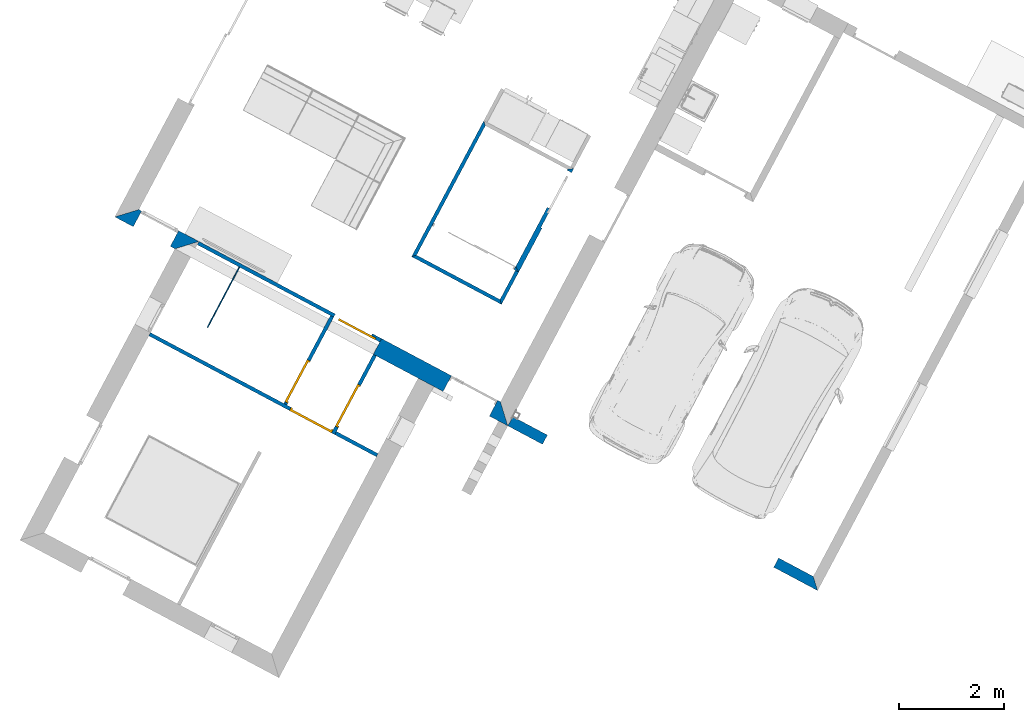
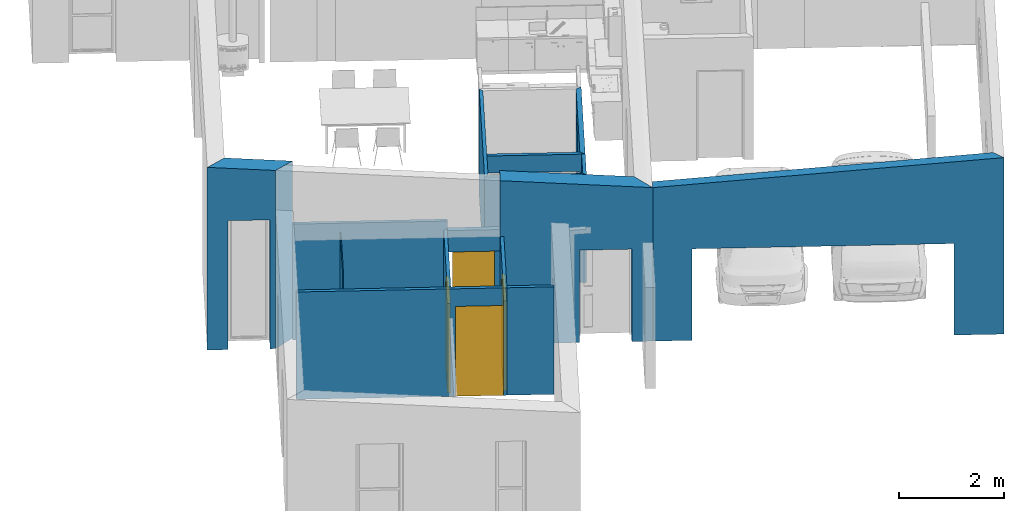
# One storey, part 3 of 27: 14 walls, 4 doors, 9 openings.
"""IFC2X3 building model written with IfcOpenShell, lengths in metres."""

from ifc_helpers import new_model, entity, si_unit, converted_unit, derived_unit, money_unit, direction, frame, origin_with_axes, origin_2d_with_axis, place, context, subcontext, project, spatial, polyline, rectangle, outline, extrude, clip, halfspace, bounded_halfspace, faceted_brep, source, transform, mapped, material, layer, layer_set, layer_usage, type_object, element, fill, save


model = new_model("IFC2X3")

# Units and contexts
model_context = context("Model", 3, precision=1e-05, world=origin_with_axes(), true_north=direction((0.0, 1.0)))
body_context = subcontext(model_context, "Body", "Model", "MODEL_VIEW")
ifc_project = project(units=[si_unit("LENGTHUNIT", "METRE"), si_unit("AREAUNIT", "SQUARE_METRE"), si_unit("VOLUMEUNIT", "CUBIC_METRE"), converted_unit("PLANEANGLEUNIT", "DEGREE", entity("IfcPlaneAngleMeasure", 0.0174532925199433), si_unit("PLANEANGLEUNIT", "RADIAN"), dimensions=[0, 0, 0, 0, 0, 0, 0]), money_unit("CHF"), converted_unit("TIMEUNIT", "Year", entity("IfcTimeMeasure", 31557600.0), si_unit("TIMEUNIT", "SECOND"), dimensions=[0, 0, 1, 0, 0, 0, 0]), si_unit("MASSUNIT", "GRAM", prefix="KILO"), si_unit("THERMODYNAMICTEMPERATUREUNIT", "DEGREE_CELSIUS"), si_unit("LUMINOUSINTENSITYUNIT", "LUMEN"), si_unit("ENERGYUNIT", "JOULE", prefix="MEGA"), derived_unit("THERMALCONDUCTANCEUNIT", [(si_unit("POWERUNIT", "WATT"), 1), (si_unit("LENGTHUNIT", "METRE"), -1), (si_unit("THERMODYNAMICTEMPERATUREUNIT", "KELVIN"), -1)]), derived_unit("SPECIFICHEATCAPACITYUNIT", [(si_unit("ENERGYUNIT", "JOULE"), 1), (si_unit("MASSUNIT", "GRAM", prefix="KILO"), -1), (si_unit("THERMODYNAMICTEMPERATUREUNIT", "KELVIN"), -1)]), derived_unit("MASSDENSITYUNIT", [(si_unit("MASSUNIT", "GRAM", prefix="KILO"), 1), (si_unit("VOLUMEUNIT", "CUBIC_METRE"), -1)])], contexts=[model_context])

# Site, building, storey
site_placement = place(None, frame((0.0, 0.0, 0.0), z_axis=(0.0, 0.0, 1.0), x_axis=(-0.4694715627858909, -0.8829475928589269, 0.0)))
site = spatial("IfcSite", under=ifc_project, at=site_placement, Name="Site", CompositionType="ELEMENT")
building_placement = place(site_placement, origin_with_axes())
building = spatial("IfcBuilding", under=site, at=building_placement, Name="Bâtiment", CompositionType="ELEMENT")
storey_placement = place(building_placement, origin_with_axes())
storey = spatial("IfcBuildingStorey", under=building, at=storey_placement, Name="RDC", CompositionType="ELEMENT", Elevation=0.0)

# Wall, opening
ifc_material_1 = material(Name="Maçonnerie 290464332")
ifc_layer_1 = layer(ifc_material_1, 0.2, ventilated="UNKNOWN")
ifc_material_2 = material(Name="Isolation 272048125")
ifc_layer_2 = layer(ifc_material_2, 0.14, ventilated="UNKNOWN")
ifc_layer_set_1 = layer_set([ifc_layer_1, ifc_layer_2], Name="MUR EXT 34 0024849982")
ifc_layer_usage_1 = layer_usage(ifc_layer_set_1, "AXIS2", "POSITIVE", 0.0)
wall_type_1 = type_object("IfcWallType", Name="MUR EXT 34 0024849982 340", PredefinedType="NOTDEFINED")
wall_1_placement = place(storey_placement, frame((143.5295710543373, -831.60459910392, 0.0), z_axis=(0.0, 0.0, 1.0), x_axis=(0.0, 1.0, 0.0)))
wall_1 = element("IfcWallStandardCase", 1, at=wall_1_placement, inside=storey, type_object=wall_type_1, material=ifc_layer_usage_1, Name="Mur-390", context=body_context, shape_type="Clipping", body=[
    clip(extrude(outline(polyline([(0.0, 0.0), (2.910000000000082, 0.0), (2.57000000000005, 0.3400000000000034), (0.0, 0.3400000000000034), (0.0, 0.0)])), origin_with_axes(), (0.0, 0.0, 1.0), 5.0), bounded_halfspace(frame((0.3024483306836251, 0.0, 3.780604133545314), z_axis=(-0.07974522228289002, 0.0, -0.9968152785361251), x_axis=(0.0, 1.0, 0.0)), True, origin_with_axes(), polyline([(-6.690009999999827, -0.01), (2.910000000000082, -0.01), (2.910000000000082, 0.3500000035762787), (-6.690009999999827, 0.3500000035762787), (-6.690009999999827, -0.01)]))),
])
opening_1_placement = place(wall_1_placement, frame((2.009999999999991, 0.0, 0.0), z_axis=(0.0, 0.0, 1.0), x_axis=(1.0, 0.0, 0.0)))
element("IfcOpeningElement", 2, at=opening_1_placement, cuts=wall_1, Name="porte 75", context=body_context, shape_type="SweptSolid", body=[
    extrude(rectangle(XDim=1.0, YDim=2.15, at=origin_2d_with_axis()), frame((0.0, -0.3400000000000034, 1.075), z_axis=(0.0, 1.0, 0.0), x_axis=(1.0, 0.0, 0.0)), (0.0, 0.0, 1.0), 1.02),
])

ifc_layer_usage_2 = layer_usage(ifc_layer_set_1, "AXIS2", "POSITIVE", 0.0)
wall_2_placement = place(storey_placement, frame((143.5295710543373, -837.1945991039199, 0.0), z_axis=(0.0, 0.0, 1.0), x_axis=(0.0, 1.0, 0.0)))
wall_2 = element("IfcWallStandardCase", 3, at=wall_2_placement, inside=storey, type_object=wall_type_1, material=ifc_layer_usage_2, Name="Mur-390", context=body_context, shape_type="Clipping", body=[
    clip(extrude(outline(polyline([(0.0, 0.0), (1.299999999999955, 0.0), (1.639999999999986, 0.3400000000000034), (0.3400000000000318, 0.3400000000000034), (0.0, 0.0)])), origin_with_axes(), (0.0, 0.0, 1.0), 5.0), halfspace(frame((0.3379968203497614, 0.0, 4.224960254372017), z_axis=(-0.07974522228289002, 0.0, -0.9968152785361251), x_axis=(0.0, 1.0, 0.0)), True)),
])
opening_2_placement = place(wall_2_placement, frame((0.7999999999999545, 0.0, 0.0), z_axis=(0.0, 0.0, 1.0), x_axis=(1.0, 0.0, 0.0)))
element("IfcOpeningElement", 4, at=opening_2_placement, cuts=wall_2, Name="Fen-155", context=body_context, shape_type="SweptSolid", body=[
    extrude(rectangle(XDim=0.7999999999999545, YDim=3.0, at=origin_2d_with_axis()), frame((0.0, -0.3400000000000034, 1.5), z_axis=(0.0, -1.0, 0.0), x_axis=(1.0, 0.0, 0.0)), (0.0, 0.0, -1.0), 1.02),
])

# Wall, opening, door
ifc_material_3 = material(Name="Isolation 269295175")
ifc_layer_3 = layer(ifc_material_3, 0.1, ventilated="UNKNOWN")
ifc_layer_set_2 = layer_set([ifc_layer_3], Name="CLOISON 10")
ifc_layer_usage_3 = layer_usage(ifc_layer_set_2, "AXIS2", "NEGATIVE", 0.0)
wall_type_2 = type_object("IfcWallType", Name="CLOISON 10 100", PredefinedType="NOTDEFINED")
wall_3_placement = place(storey_placement, frame((143.1895710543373, -832.60459910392, 0.0), z_axis=(0.0, 0.0, 1.0), x_axis=(0.0, 1.0, 0.0)))
wall_3 = element("IfcWallStandardCase", 5, at=wall_3_placement, inside=storey, type_object=wall_type_2, material=ifc_layer_usage_3, Name="Mur-396", context=body_context, shape_type="SweptSolid", body=[
    extrude(outline(polyline([(0.0, -0.09999999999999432), (1.0, -0.09999999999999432), (1.0, 0.0), (0.0, 0.0), (0.0, -0.09999999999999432)])), origin_with_axes(), (0.0, 0.0, 1.0), 2.5),
])
opening_3_placement = place(wall_3_placement, frame((0.3999999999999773, 0.0, 0.0), z_axis=(0.0, 0.0, 1.0), x_axis=(1.0, 0.0, 0.0)))
opening_3 = element("IfcOpeningElement", 6, at=opening_3_placement, cuts=wall_3, Name="porte 76", context=body_context, shape_type="SweptSolid", body=[
    extrude(rectangle(XDim=0.7999999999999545, YDim=2.0, at=origin_2d_with_axis()), frame((0.0, -0.06999999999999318, 1.0), z_axis=(0.0, 1.0, 0.0), x_axis=(1.0, 0.0, 0.0)), (0.0, 0.0, 1.0), 0.17),
    extrude(rectangle(XDim=0.3999999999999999, YDim=2.0, at=origin_2d_with_axis()), frame((0.6000000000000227, -0.1200000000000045, 0.9999999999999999), z_axis=(0.0, -1.0, 0.0), x_axis=(1.0, 0.0, 0.0)), (0.0, 0.0, -1.0), 0.045),
    extrude(rectangle(XDim=0.7999999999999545, YDim=2.0, at=origin_2d_with_axis()), frame((0.0, -0.06999999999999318, 0.9999999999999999), z_axis=(0.0, -1.0, 0.0), x_axis=(1.0, 0.0, 0.0)), (0.0, 0.0, 1.0), 0.13),
])
door_style_1 = type_object("IfcDoorStyle", Name="P_coul dans mur 12", ConstructionType="NOTDEFINED", OperationType="SLIDING_TO_LEFT", ParameterTakesPrecedence=False, Sizeable=False)
door_1_placement = place(opening_3_placement, frame((0.3999999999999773, 0.0, 0.0), z_axis=(0.0, 0.0, 1.0), x_axis=(-1.0, 0.0, 0.0)))
door_1 = element("IfcDoor", 7, at=door_1_placement, inside=storey, type_object=door_style_1, Name="porte 76", OverallHeight=2.0, OverallWidth=0.8, context=body_context, shape_type="Brep", body=[
    faceted_brep([(-0.1000000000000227, 0.0800000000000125, 0.0), (0.6999999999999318, 0.0800000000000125, 0.0), (0.6999999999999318, 0.03999999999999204, 0.0), (-0.1000000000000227, 0.03999999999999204, 0.0), (-0.1000000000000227, 0.0800000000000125, 2.0), (0.6999999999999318, 0.0800000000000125, 2.0), (0.6999999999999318, 0.03999999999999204, 2.0), (-0.1000000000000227, 0.03999999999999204, 2.0)], [[[0, 1, 2, 3]], [[0, 4, 5, 1]], [[1, 5, 6, 2]], [[3, 2, 6, 7]], [[4, 0, 3, 7]], [[5, 4, 7, 6]]]),
])
fill(opening_3, door_1)

# Wall, opening
ifc_layer_usage_4 = layer_usage(ifc_layer_set_2, "AXIS2", "POSITIVE", 0.0)
wall_4_placement = place(storey_placement, frame((140.8395710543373, -829.8895991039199, 0.0), z_axis=(0.0, 0.0, 1.0), x_axis=(-1.0, 0.0, 0.0)))
wall_4 = element("IfcWallStandardCase", 8, at=wall_4_placement, inside=storey, type_object=wall_type_2, material=ifc_layer_usage_4, Name="Mur-396", context=body_context, shape_type="SweptSolid", body=[
    extrude(outline(polyline([(0.0, 0.0), (2.239999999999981, 0.0), (2.169999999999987, 0.1000000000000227), (0.06999999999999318, 0.1000000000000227), (0.0, 0.0)])), origin_with_axes(), (0.0, 0.0, 1.0), 2.5),
])
opening_4_placement = place(wall_4_placement, frame((1.74990555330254, 0.0, 0.0), z_axis=(0.0, 0.0, 1.0), x_axis=(1.0, 0.0, 0.0)))
element("IfcOpeningElement", 9, at=opening_4_placement, cuts=wall_4, Name="porte 76", context=body_context, shape_type="SweptSolid", body=[
    extrude(rectangle(XDim=0.8000000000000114, YDim=2.0, at=origin_2d_with_axis()), frame((0.0, 0.02999999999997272, 0.9999999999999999), z_axis=(0.0, -1.0, 0.0), x_axis=(-1.0, 0.0, 0.0)), (0.0, 0.0, -1.0), 0.17),
    extrude(rectangle(XDim=0.3999999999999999, YDim=2.0, at=origin_2d_with_axis()), frame((-0.5999999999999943, -0.01999999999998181, 0.9999999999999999), z_axis=(0.0, 1.0, 0.0), x_axis=(-1.0, 0.0, 0.0)), (0.0, 0.0, 1.0), 0.045),
    extrude(rectangle(XDim=0.8000000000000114, YDim=2.0, at=origin_2d_with_axis()), frame((0.0, 0.02999999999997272, 0.9999999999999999), z_axis=(0.0, 1.0, 0.0), x_axis=(-1.0, 0.0, 0.0)), (0.0, 0.0, -1.0), 0.13),
])

# Wall, opening, door
ifc_layer_4 = layer(ifc_material_3, 0.07, ventilated="UNKNOWN")
ifc_layer_set_3 = layer_set([ifc_layer_4], Name="CLOISON 7 0024849982")
ifc_layer_usage_5 = layer_usage(ifc_layer_set_3, "AXIS2", "NEGATIVE", 0.0)
wall_type_3 = type_object("IfcWallType", Name="CLOISON 7 0024849982 70", PredefinedType="NOTDEFINED")
wall_5_placement = place(storey_placement, frame((145.1595661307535, -835.5545991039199, 0.0), z_axis=(0.0, 0.0, 1.0), x_axis=(0.0, 1.0, 0.0)))
wall_5 = element("IfcWallStandardCase", 10, at=wall_5_placement, inside=storey, type_object=wall_type_3, material=ifc_layer_usage_5, Name="Mur-394", context=body_context, shape_type="SweptSolid", body=[
    extrude(outline(polyline([(0.0, -0.06999999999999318), (4.919999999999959, -0.06999999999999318), (4.919999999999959, 0.0), (0.0, 0.0), (0.0, -0.06999999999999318)])), origin_with_axes(), (0.0, 0.0, 1.0), 2.5),
])
opening_5_placement = place(wall_5_placement, frame((3.494999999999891, 0.0, 0.0), z_axis=(0.0, 0.0, 1.0), x_axis=(1.0, 0.0, 0.0)))
opening_5 = element("IfcOpeningElement", 11, at=opening_5_placement, cuts=wall_5, Name="porte 76", context=body_context, shape_type="SweptSolid", body=[
    extrude(rectangle(XDim=0.9100000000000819, YDim=2.09, at=origin_2d_with_axis()), frame((0.0, 0.06999999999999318, 1.045), z_axis=(0.0, 1.0, 0.0), x_axis=(1.0, 0.0, 0.0)), (0.0, 0.0, -1.0), 0.21),
])
door_style_2 = type_object("IfcDoorStyle", Name="P_int simple à carreaux 10", ConstructionType="NOTDEFINED", OperationType="SINGLE_SWING_LEFT", ParameterTakesPrecedence=False, Sizeable=False)
shared_shape = source(origin_with_axes(), body_context, "Body", "Brep", [
    faceted_brep([(0.423, -0.044, 0.0), (0.423, -0.07, 0.0), (0.423, -0.07, 2.058), (0.423, -0.044, 2.058), (0.4350000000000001, -0.044, 0.0), (0.4350000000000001, 0.0, 0.0), (0.4550000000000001, 0.0, 0.0), (0.4550000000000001, -0.07, 0.0), (0.4550000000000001, -0.07, 2.058), (0.4350000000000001, -0.044, 2.058), (0.4550000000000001, 0.0, 2.058), (0.4350000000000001, 0.0, 2.058)], [[[0, 1, 2, 3]], [[4, 5, 6, 7, 1, 0]], [[2, 1, 7, 8]], [[9, 3, 2, 8, 10, 11]], [[9, 4, 0, 3]], [[11, 5, 4, 9]], [[11, 10, 6, 5]], [[6, 10, 8, 7]]]),
    faceted_brep([(-0.4350000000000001, -0.044, 2.058), (-0.4350000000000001, 0.0, 2.058), (-0.4550000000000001, 0.0, 2.058), (-0.4550000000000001, -0.07, 2.058), (-0.423, -0.07, 2.058), (-0.423, -0.044, 2.058), (-0.4350000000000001, -0.044, 0.0), (-0.4350000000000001, 0.0, 0.0), (-0.4550000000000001, 0.0, 0.0), (-0.4550000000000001, -0.07, 0.0), (-0.423, -0.07, 0.0), (-0.423, -0.044, 0.0)], [[[0, 1, 2, 3, 4, 5]], [[0, 6, 7, 1]], [[7, 8, 2, 1]], [[2, 8, 9, 3]], [[3, 9, 10, 4]], [[5, 4, 10, 11]], [[5, 11, 6, 0]], [[6, 11, 10, 9, 8, 7]]]),
    faceted_brep([(0.4350000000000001, 0.0, 2.07), (-0.4350000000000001, 0.0, 2.07), (-0.4350000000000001, 0.0, 2.058), (-0.455, 0.0, 2.058), (-0.455, 0.0, 2.09), (0.455, 0.0, 2.09), (0.455, 0.0, 2.058), (0.4350000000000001, 0.0, 2.058), (0.4350000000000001, -0.044, 2.07), (-0.4350000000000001, -0.044, 2.07), (-0.4350000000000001, -0.044, 2.058), (-0.423, -0.044, 2.058), (-0.423, -0.07, 2.058), (-0.455, -0.07, 2.058), (-0.455, -0.07, 2.09), (0.455, -0.07, 2.09), (0.455, -0.07, 2.058), (0.4350000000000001, -0.044, 2.058), (0.423, -0.07, 2.058), (0.423, -0.044, 2.058)], [[[0, 1, 2, 3, 4, 5, 6, 7]], [[0, 8, 9, 1]], [[1, 9, 10, 2]], [[10, 11, 12, 13, 3, 2]], [[4, 3, 13, 14]], [[5, 4, 14, 15]], [[6, 5, 15, 16]], [[17, 7, 6, 16, 18, 19]], [[7, 17, 8, 0]], [[10, 9, 8, 17, 19, 11]], [[19, 18, 12, 11]], [[12, 18, 16, 15, 14, 13]]]),
    faceted_brep([(0.1, -0.044, 0.0), (0.435, -0.044, 0.0), (0.435, -0.04400000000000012, 2.07), (0.1, -0.04400000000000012, 2.07), (0.1, 0.0, 0.0), (0.435, 0.0, 0.0), (0.435, 0.0, 2.07), (0.1, 0.0, 2.07)], [[[0, 1, 2, 3]], [[4, 5, 1, 0]], [[1, 5, 6, 2]], [[3, 2, 6, 7]], [[7, 4, 0, 3]], [[7, 6, 5, 4]]]),
    faceted_brep([(-0.1, 0.0, 2.07), (-0.435, 0.0, 2.07), (-0.435, -0.04400000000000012, 2.07), (-0.1, -0.04400000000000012, 2.07), (-0.1, 0.0, 0.0), (-0.435, 0.0, 0.0), (-0.435, -0.044, 0.0), (-0.1, -0.044, 0.0)], [[[0, 1, 2, 3]], [[4, 5, 1, 0]], [[2, 1, 5, 6]], [[3, 2, 6, 7]], [[7, 4, 0, 3]], [[7, 6, 5, 4]]]),
    faceted_brep([(0.1, 0.0, 1.87), (0.1, 0.0, 2.07), (0.1, -0.044, 2.07), (0.1, -0.044, 1.87), (-0.1, 0.0, 1.87), (-0.1, 0.0, 2.07), (-0.1, -0.044, 2.07), (-0.1, -0.044, 1.87)], [[[0, 1, 2, 3]], [[0, 4, 5, 1]], [[1, 5, 6, 2]], [[3, 2, 6, 7]], [[4, 0, 3, 7]], [[5, 4, 7, 6]]]),
    faceted_brep([(0.1, 0.0, 1.67), (0.1, 0.0, 1.87), (0.1, -0.044, 1.87), (0.1, -0.044, 1.67), (-0.1, 0.0, 1.67), (-0.1, 0.0, 1.87), (-0.1, -0.044, 1.87), (-0.1, -0.044, 1.67)], [[[0, 1, 2, 3]], [[0, 4, 5, 1]], [[1, 5, 6, 2]], [[3, 2, 6, 7]], [[4, 0, 3, 7]], [[5, 4, 7, 6]]]),
    faceted_brep([(0.1, 0.0, 1.47), (0.1, 0.0, 1.67), (0.1, -0.044, 1.67), (0.1, -0.044, 1.47), (-0.1, 0.0, 1.47), (-0.1, 0.0, 1.67), (-0.1, -0.044, 1.67), (-0.1, -0.044, 1.47)], [[[0, 1, 2, 3]], [[0, 4, 5, 1]], [[1, 5, 6, 2]], [[3, 2, 6, 7]], [[4, 0, 3, 7]], [[5, 4, 7, 6]]]),
    faceted_brep([(0.1, 0.0, 1.27), (0.1, 0.0, 1.47), (0.1, -0.044, 1.47), (0.1, -0.044, 1.27), (-0.1, 0.0, 1.27), (-0.1, 0.0, 1.47), (-0.1, -0.044, 1.47), (-0.1, -0.044, 1.27)], [[[0, 1, 2, 3]], [[0, 4, 5, 1]], [[1, 5, 6, 2]], [[3, 2, 6, 7]], [[4, 0, 3, 7]], [[5, 4, 7, 6]]]),
    faceted_brep([(0.1, 0.0, 1.07), (0.1, 0.0, 1.27), (0.1, -0.044, 1.27), (0.1, -0.044, 1.07), (-0.1, 0.0, 1.07), (-0.1, 0.0, 1.27), (-0.1, -0.044, 1.27), (-0.1, -0.044, 1.07)], [[[0, 1, 2, 3]], [[0, 4, 5, 1]], [[1, 5, 6, 2]], [[3, 2, 6, 7]], [[4, 0, 3, 7]], [[5, 4, 7, 6]]]),
    faceted_brep([(0.1, 0.0, 0.8700000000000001), (0.1, 0.0, 1.07), (0.1, -0.044, 1.07), (0.1, -0.044, 0.8700000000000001), (-0.1, 0.0, 0.8700000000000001), (-0.1, 0.0, 1.07), (-0.1, -0.044, 1.07), (-0.1, -0.044, 0.8700000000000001)], [[[0, 1, 2, 3]], [[0, 4, 5, 1]], [[1, 5, 6, 2]], [[3, 2, 6, 7]], [[4, 0, 3, 7]], [[5, 4, 7, 6]]]),
    faceted_brep([(0.1, 0.0, 0.6700000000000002), (0.1, 0.0, 0.8700000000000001), (0.1, -0.044, 0.8700000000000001), (0.1, -0.044, 0.6700000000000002), (-0.1, 0.0, 0.6700000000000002), (-0.1, 0.0, 0.8700000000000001), (-0.1, -0.044, 0.8700000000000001), (-0.1, -0.044, 0.6700000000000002)], [[[0, 1, 2, 3]], [[0, 4, 5, 1]], [[1, 5, 6, 2]], [[3, 2, 6, 7]], [[4, 0, 3, 7]], [[5, 4, 7, 6]]]),
    faceted_brep([(0.1, 0.0, 0.4700000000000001), (0.1, 0.0, 0.6700000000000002), (0.1, -0.044, 0.6700000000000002), (0.1, -0.044, 0.4700000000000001), (-0.1, 0.0, 0.4700000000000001), (-0.1, 0.0, 0.6700000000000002), (-0.1, -0.044, 0.6700000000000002), (-0.1, -0.044, 0.4700000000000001)], [[[0, 1, 2, 3]], [[0, 4, 5, 1]], [[1, 5, 6, 2]], [[3, 2, 6, 7]], [[4, 0, 3, 7]], [[5, 4, 7, 6]]]),
    faceted_brep([(0.1, 0.0, 0.2700000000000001), (0.1, 0.0, 0.4700000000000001), (0.1, -0.044, 0.4700000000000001), (0.1, -0.044, 0.2700000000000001), (-0.1, 0.0, 0.2700000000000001), (-0.1, 0.0, 0.4700000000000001), (-0.1, -0.044, 0.4700000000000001), (-0.1, -0.044, 0.2700000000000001)], [[[0, 1, 2, 3]], [[0, 4, 5, 1]], [[1, 5, 6, 2]], [[3, 2, 6, 7]], [[4, 0, 3, 7]], [[5, 4, 7, 6]]]),
    faceted_brep([(0.1, 0.0, 0.07000000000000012), (0.1, 0.0, 0.2700000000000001), (0.1, -0.044, 0.2700000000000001), (0.1, -0.044, 0.07000000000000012), (-0.1, 0.0, 0.07000000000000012), (-0.1, 0.0, 0.2700000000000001), (-0.1, -0.044, 0.2700000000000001), (-0.1, -0.044, 0.07000000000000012)], [[[0, 1, 2, 3]], [[0, 4, 5, 1]], [[1, 5, 6, 2]], [[3, 2, 6, 7]], [[4, 0, 3, 7]], [[5, 4, 7, 6]]]),
    faceted_brep([(0.1, -0.044, 0.0), (0.1, -0.044, 0.07000000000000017), (-0.1, -0.044, 0.07000000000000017), (-0.1, -0.044, 0.0), (0.1, 0.0, 0.0), (0.1, 0.0, 0.07000000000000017), (-0.1, 0.0, 0.07000000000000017), (-0.1, 0.0, 0.0)], [[[0, 1, 2, 3]], [[4, 5, 1, 0]], [[1, 5, 6, 2]], [[3, 2, 6, 7]], [[7, 4, 0, 3]], [[7, 6, 5, 4]]]),
])
door_2_placement = place(opening_5_placement, frame((0.4550000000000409, 0.0, 0.0), z_axis=(0.0, 0.0, 1.0), x_axis=(-1.0, 0.0, 0.0)))
door_2 = element("IfcDoor", 12, at=door_2_placement, inside=storey, type_object=door_style_2, Name="porte 76", OverallHeight=2.09, OverallWidth=0.91, context=body_context, shape_type="MappedRepresentation", body=[
    mapped(shared_shape, transform((0.4550000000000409, 0.06999999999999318, 0.0))),
])
fill(opening_5, door_2)

ifc_layer_usage_6 = layer_usage(ifc_layer_set_3, "AXIS2", "NEGATIVE", 0.0)
wall_6_placement = place(storey_placement, frame((143.1895710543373, -832.60459910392, 0.0), z_axis=(0.0, 0.0, 1.0), x_axis=(1.0, 0.0, 0.0)))
wall_6 = element("IfcWallStandardCase", 13, at=wall_6_placement, inside=storey, type_object=wall_type_3, material=ifc_layer_usage_6, Name="Mur-394", context=body_context, shape_type="SweptSolid", body=[
    extrude(outline(polyline([(0.06999999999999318, -0.07000000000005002), (1.969995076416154, -0.07000000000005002), (1.969995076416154, 0.0), (0.06999999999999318, 0.0), (0.06999999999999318, -0.07000000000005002)])), origin_with_axes(), (0.0, 0.0, 1.0), 2.5),
])
opening_6_placement = place(wall_6_placement, frame((1.474997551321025, 0.0, 0.0), z_axis=(0.0, 0.0, 1.0), x_axis=(1.0, 0.0, 0.0)))
opening_6 = element("IfcOpeningElement", 14, at=opening_6_placement, cuts=wall_6, Name="porte 76", context=body_context, shape_type="SweptSolid", body=[
    extrude(rectangle(XDim=0.910000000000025, YDim=2.09, at=origin_2d_with_axis()), frame((0.0, 0.07000000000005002, 1.045), z_axis=(0.0, 1.0, 0.0), x_axis=(1.0, 0.0, 0.0)), (0.0, 0.0, -1.0), 0.21),
])
door_3_placement = place(opening_6_placement, frame((0.4549999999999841, 0.0, 0.0), z_axis=(0.0, 0.0, 1.0), x_axis=(-1.0, 0.0, 0.0)))
door_3 = element("IfcDoor", 15, at=door_3_placement, inside=storey, type_object=door_style_2, Name="porte 76", OverallHeight=2.09, OverallWidth=0.91, context=body_context, shape_type="MappedRepresentation", body=[
    mapped(shared_shape, transform((0.4550000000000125, 0.07000000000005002, 0.0))),
])
fill(opening_6, door_3)

# Wall
ifc_layer_usage_7 = layer_usage(ifc_layer_set_3, "AXIS2", "NEGATIVE", 0.0)
wall_7_placement = place(storey_placement, frame((143.1895710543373, -835.5545991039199, 0.0), z_axis=(0.0, 0.0, 1.0), x_axis=(0.0, 1.0, 0.0)))
element("IfcWallStandardCase", 16, at=wall_7_placement, inside=storey, type_object=wall_type_3, material=ifc_layer_usage_7, Name="Mur-394", context=body_context, shape_type="SweptSolid", body=[
    extrude(outline(polyline([(0.0, -0.06999999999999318), (2.949999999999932, -0.06999999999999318), (2.949999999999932, 0.0), (0.0, 0.0), (0.0, -0.06999999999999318)])), origin_with_axes(), (0.0, 0.0, 1.0), 2.7),
])

# Wall, opening, door
ifc_layer_usage_8 = layer_usage(ifc_layer_set_3, "AXIS2", "POSITIVE", 0.0)
wall_8_placement = place(storey_placement, frame((145.2295661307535, -831.53459910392, 0.0), z_axis=(0.0, 0.0, 1.0), x_axis=(-1.0, 0.0, 0.0)))
wall_8 = element("IfcWallStandardCase", 17, at=wall_8_placement, inside=storey, type_object=wall_type_3, material=ifc_layer_usage_8, Name="Mur-395", context=body_context, shape_type="SweptSolid", body=[
    extrude(outline(polyline([(0.0, 0.0), (1.699995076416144, 0.0), (1.699995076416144, 0.07000000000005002), (0.0, 0.07000000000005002), (0.0, 0.0)])), origin_with_axes(), (0.0, 0.0, 1.0), 2.5),
])
opening_7_placement = place(wall_8_placement, frame((0.6049999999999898, 0.0, 0.0), z_axis=(0.0, 0.0, 1.0), x_axis=(1.0, 0.0, 0.0)))
opening_7 = element("IfcOpeningElement", 18, at=opening_7_placement, cuts=wall_8, Name="porte 76", context=body_context, shape_type="SweptSolid", body=[
    extrude(rectangle(XDim=0.910000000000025, YDim=2.09, at=origin_2d_with_axis()), frame((0.0, -0.07000000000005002, 1.045), z_axis=(0.0, -1.0, 0.0), x_axis=(-1.0, 0.0, 0.0)), (0.0, 0.0, -1.0), 0.21),
])
door_4_placement = place(opening_7_placement, frame((-0.4550000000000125, 0.0, 0.0), z_axis=(0.0, 0.0, 1.0), x_axis=(1.0, 0.0, 0.0)))
door_4 = element("IfcDoor", 19, at=door_4_placement, inside=storey, type_object=door_style_2, Name="porte 76", OverallHeight=2.09, OverallWidth=0.91, context=body_context, shape_type="MappedRepresentation", body=[
    mapped(shared_shape, transform((0.4550000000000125, 0.07000000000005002, 0.0))),
])
fill(opening_7, door_4)

# Wall
ifc_layer_usage_9 = layer_usage(ifc_layer_set_3, "AXIS2", "POSITIVE", 0.0)
wall_9_placement = place(storey_placement, frame((141.5395710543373, -831.8345991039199, 0.0), z_axis=(0.0, 0.0, 1.0), x_axis=(0.0, 1.0, 0.0)))
element("IfcWallStandardCase", 20, at=wall_9_placement, inside=storey, type_object=wall_type_3, material=ifc_layer_usage_9, Name="Mur-396", context=body_context, shape_type="SweptSolid", body=[
    extrude(outline(polyline([(0.0, 0.0), (1.94500000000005, 0.0), (1.875, 0.06999999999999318), (0.07000000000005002, 0.06999999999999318), (0.0, 0.0)])), origin_with_axes(), (0.0, 0.0, 1.0), 2.5),
])

# Wall, opening
ifc_layer_usage_10 = layer_usage(ifc_layer_set_3, "AXIS2", "POSITIVE", 0.0)
wall_10_placement = place(storey_placement, frame((140.8395710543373, -831.8345991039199, 0.0), z_axis=(0.0, 0.0, 1.0), x_axis=(0.0, 1.0, 0.0)))
wall_10 = element("IfcWallStandardCase", 21, at=wall_10_placement, inside=storey, type_object=wall_type_3, material=ifc_layer_usage_10, Name="Mur-396", context=body_context, shape_type="SweptSolid", body=[
    extrude(outline(polyline([(0.07000000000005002, 0.0), (1.94500000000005, 0.0), (1.845000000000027, 0.06999999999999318), (0.07000000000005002, 0.06999999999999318), (0.07000000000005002, 0.0)])), origin_with_axes(), (0.0, 0.0, 1.0), 2.5),
])
opening_8_placement = place(wall_10_placement, frame((0.9574999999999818, 0.0, 0.0), z_axis=(0.0, 0.0, 1.0), x_axis=(1.0, 0.0, 0.0)))
element("IfcOpeningElement", 22, at=opening_8_placement, cuts=wall_10, Name="porte 77", context=body_context, shape_type="SweptSolid", body=[
    extrude(rectangle(XDim=1.769999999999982, YDim=2.1, at=origin_2d_with_axis()), frame((0.0, 0.06999999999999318, 1.05), z_axis=(0.0, 1.0, 0.0), x_axis=(1.0, 0.0, 0.0)), (0.0, 0.0, -1.0), 0.21),
])

# Walls
ifc_layer_usage_11 = layer_usage(ifc_layer_set_3, "AXIS2", "NEGATIVE", 0.0)
wall_11_placement = place(storey_placement, frame((141.5395710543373, -831.8345991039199, 0.0), z_axis=(0.0, 0.0, 1.0), x_axis=(-1.0, 0.0, 0.0)))
element("IfcWallStandardCase", 23, at=wall_11_placement, inside=storey, type_object=wall_type_3, material=ifc_layer_usage_11, Name="Mur-396", context=body_context, shape_type="SweptSolid", body=[
    extrude(outline(polyline([(0.06999999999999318, -0.07000000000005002), (2.869999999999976, -0.07000000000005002), (2.939999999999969, 0.0), (0.0, 0.0), (0.06999999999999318, -0.07000000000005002)])), origin_with_axes(), (0.0, 0.0, 1.0), 2.5),
])
ifc_layer_usage_12 = layer_usage(ifc_layer_set_3, "AXIS2", "NEGATIVE", 0.0)
wall_12_placement = place(storey_placement, frame((140.8395710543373, -829.8895991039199, 0.0), z_axis=(0.0, 0.0, 1.0), x_axis=(1.0, 0.0, 0.0)))
element("IfcWallStandardCase", 24, at=wall_12_placement, inside=storey, type_object=wall_type_3, material=ifc_layer_usage_12, Name="Mur-396", context=body_context, shape_type="SweptSolid", body=[
    extrude(outline(polyline([(0.0, -0.07000000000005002), (0.6299999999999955, -0.07000000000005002), (0.6999999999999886, 0.0), (0.0, 0.0), (0.0, -0.07000000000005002)])), origin_with_axes(), (0.0, 0.0, 1.0), 2.5),
])
ifc_layer_5 = layer(ifc_material_3, 0.02, ventilated="UNKNOWN")
ifc_layer_set_4 = layer_set([ifc_layer_5], Name="CLOISON 2 0024849982")
ifc_layer_usage_13 = layer_usage(ifc_layer_set_4, "AXIS2", "POSITIVE", 0.0)
wall_type_4 = type_object("IfcWallType", Name="CLOISON 2 0024849982 20", PredefinedType="NOTDEFINED")
wall_13_placement = place(storey_placement, frame((143.2595710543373, -834.6526144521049, 0.0), z_axis=(0.0, 0.0, 1.0), x_axis=(1.0, 0.0, 0.0)))
element("IfcWallStandardCase", 25, at=wall_13_placement, inside=storey, type_object=wall_type_4, material=ifc_layer_usage_13, Name="Mur-395", context=body_context, shape_type="SweptSolid", body=[
    extrude(outline(polyline([(0.0, 0.0), (1.300000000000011, 0.0), (1.300000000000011, 0.01999999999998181), (0.0, 0.01999999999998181), (0.0, 0.0)])), origin_with_axes(), (0.0, 0.0, 1.0), 2.5),
])

# Wall, opening
ifc_layer_6 = layer(ifc_material_1, 0.2, ventilated="UNKNOWN")
ifc_layer_set_5 = layer_set([ifc_layer_6], Name="MUR EXT 20 0024849982")
ifc_layer_usage_14 = layer_usage(ifc_layer_set_5, "AXIS2", "POSITIVE", 0.0)
wall_type_5 = type_object("IfcWallType", Name="MUR EXT 20 0024849982 200", PredefinedType="NOTDEFINED")
wall_14_placement = place(storey_placement, frame((143.5295710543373, -828.6945991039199, 0.0), z_axis=(0.0, 0.0, 1.0), x_axis=(0.0, 1.0, 0.0)))
wall_14 = element("IfcWallStandardCase", 26, at=wall_14_placement, inside=storey, type_object=wall_type_5, material=ifc_layer_usage_14, Name="Mur-393", context=body_context, shape_type="Clipping", body=[
    clip(extrude(outline(polyline([(0.0, 0.0), (6.700000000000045, 0.0), (6.5, 0.1999999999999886), (0.0, 0.1999999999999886), (0.0, 0.0)])), origin_with_axes(), (0.0, 0.0, 1.0), 5.0), bounded_halfspace(frame((-0.2839427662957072, 0.0, 3.54928457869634), z_axis=(0.07974522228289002, 0.0, -0.9968152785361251), x_axis=(0.0, 1.0, 0.0)), True, origin_with_axes(), polyline([(0.0, -0.01), (7.000010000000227, -0.01), (7.000010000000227, 0.2100000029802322), (0.0, 0.2100000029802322), (0.0, -0.01)]))),
])
opening_9_placement = place(wall_14_placement, frame((3.25, 0.0, 0.0), z_axis=(0.0, 0.0, 1.0), x_axis=(1.0, 0.0, 0.0)))
element("IfcOpeningElement", 27, at=opening_9_placement, cuts=wall_14, Name="porte 76", context=body_context, shape_type="SweptSolid", body=[
    extrude(rectangle(XDim=5.0, YDim=2.13, at=origin_2d_with_axis()), frame((0.0, 0.1999999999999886, 1.065), z_axis=(0.0, -1.0, 0.0), x_axis=(1.0, 0.0, 0.0)), (0.0, 0.0, -1.0), 0.2),
    extrude(rectangle(XDim=5.0, YDim=2.13, at=origin_2d_with_axis()), frame((0.0, 0.1999999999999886, 1.065), z_axis=(0.0, 1.0, 0.0), x_axis=(1.0, 0.0, 0.0)), (0.0, 0.0, -1.0), 0.2),
])

save(model, "model.ifc")
